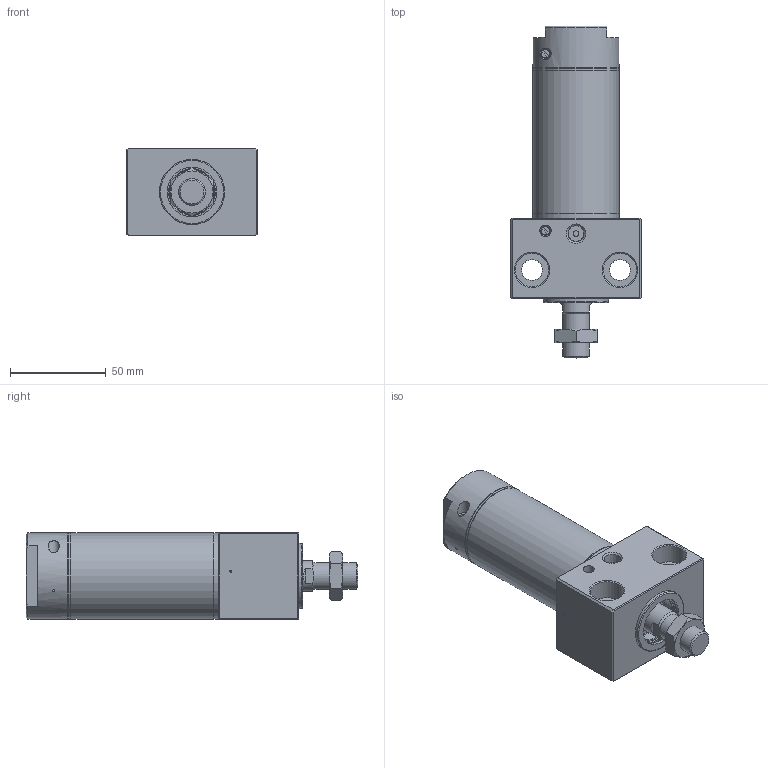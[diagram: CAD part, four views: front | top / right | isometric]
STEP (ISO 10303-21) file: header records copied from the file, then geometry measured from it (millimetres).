
FILE_DESCRIPTION((''),'2;1');
FILE_NAME('I:\3D電子目錄\氣缸\DBS\DBS\DBS40x25-C.stp','2007-10-08T08:48:49',('Administrator'),(''),'Autodesk Inventor 2008','Autodesk Inventor 2008','');
FILE_SCHEMA(('AUTOMOTIVE_DESIGN { 1 0 10303 214 1 1 1 1 }'));
Length unit declared in the file: millimetre
Products named in the file (1): DBS40x25-C
Bounding box: 68 x 173.6 x 46 mm (x, y, z)
Volume: 204071.3 mm3; surface area: 63368.3 mm2
Topology: 7 solids, 7 shells, 207 faces, 421 edges, 258 vertices
Faces by surface type: plane 92, cone 50, cylinder 46, bspline 16, torus 3
Full cylindrical faces by diameter (mm): 1.2 x1, 1.9 x2, 3 x2, 3.3 x1, 4.6 x2, 5 x2, 6 x2, 10.5 x1, 12 x1, 13 x1, 14 x2, 16 x1, 16.5 x1, 18 x1, 21 x2, 24 x3, 26 x2, 27.5 x1, 28 x2, 34 x1, 38 x2, 38.5 x2, 40 x1, 42.2 x6, 45 x4
Entity records: 5327 total; most frequent: CARTESIAN_POINT 1420, DIRECTION 818, ORIENTED_EDGE 630, AXIS2_PLACEMENT_3D 361, EDGE_LOOP 350, EDGE_CURVE 315, VERTEX_POINT 243, FACE_OUTER_BOUND 207
